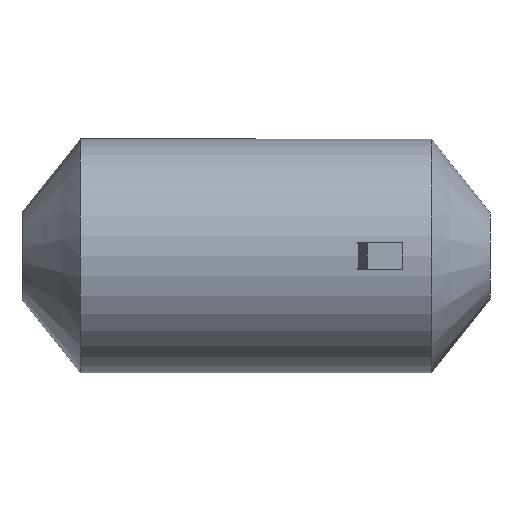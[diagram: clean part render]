
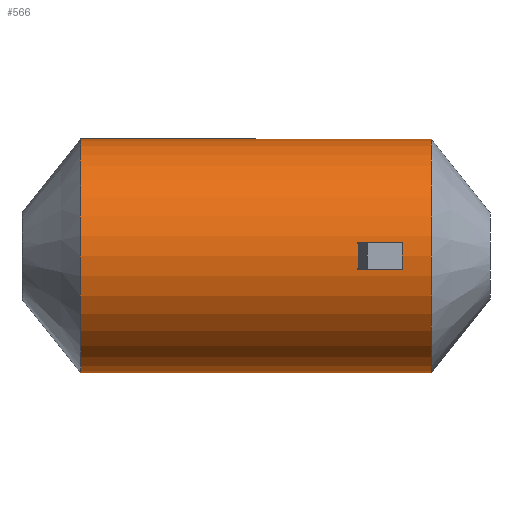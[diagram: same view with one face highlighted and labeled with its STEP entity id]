
A CAD part, left-side view. The second image highlights one B-rep face of the part: STEP entity #566.
In plain terms, the highlighted cylindrical face has radius 8000 mm (diameter 16000 mm), a partial arc.
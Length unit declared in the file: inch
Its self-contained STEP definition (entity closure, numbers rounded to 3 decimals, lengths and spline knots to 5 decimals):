
#3 = CARTESIAN_POINT ( 'NONE',  ( 0., 472.44094, 0. ) ) ;
#6 = EDGE_CURVE ( 'NONE', #756, #235, #911, .T. ) ;
#38 = DIRECTION ( 'NONE',  ( 0., 0., -1. ) ) ;
#56 = ORIENTED_EDGE ( 'NONE', *, *, #928, .F. ) ;
#65 = DIRECTION ( 'NONE',  ( 0., -1., 0. ) ) ;
#116 = DIRECTION ( 'NONE',  ( 0., 0., -1. ) ) ;
#133 = CARTESIAN_POINT ( 'NONE',  ( 0., -629.92126, 314.96063 ) ) ;
#153 = DIRECTION ( 'NONE',  ( 0., 0., -1. ) ) ;
#191 = DIRECTION ( 'NONE',  ( 0., -1., 0. ) ) ;
#197 = DIRECTION ( 'NONE',  ( 0., -1., 0. ) ) ;
#235 = VERTEX_POINT ( 'NONE', #797 ) ;
#257 = ORIENTED_EDGE ( 'NONE', *, *, #899, .T. ) ;
#288 = CYLINDRICAL_SURFACE ( 'NONE', #871, 314.96063 ) ;
#350 = CARTESIAN_POINT ( 'NONE',  ( 0., -472.44094, 314.96063 ) ) ;
#352 = AXIS2_PLACEMENT_3D ( 'NONE', #422, #197, #38 ) ;
#355 = CARTESIAN_POINT ( 'NONE',  ( 0., -629.92126, 0. ) ) ;
#375 = ORIENTED_EDGE ( 'NONE', *, *, #435, .T. ) ;
#422 = CARTESIAN_POINT ( 'NONE',  ( 0., -472.44094, 0. ) ) ;
#435 = EDGE_CURVE ( 'NONE', #493, #845, #615, .T. ) ;
#440 = CARTESIAN_POINT ( 'NONE',  ( 0., -629.92126, -314.96063 ) ) ;
#445 = AXIS2_PLACEMENT_3D ( 'NONE', #3, #807, #153 ) ;
#472 = ORIENTED_EDGE ( 'NONE', *, *, #6, .F. ) ;
#478 = EDGE_LOOP ( 'NONE', ( #56, #375, #257, #472 ) ) ;
#493 = VERTEX_POINT ( 'NONE', #672 ) ;
#500 = LINE ( 'NONE', #440, #754 ) ;
#566 = ADVANCED_FACE ( 'NONE', ( #931 ), #288, .T. ) ;
#609 = VECTOR ( 'NONE', #65, 39.37008 ) ;
#614 = CARTESIAN_POINT ( 'NONE',  ( 0., 472.44094, -314.96063 ) ) ;
#615 = CIRCLE ( 'NONE', #445, 314.96063 ) ;
#672 = CARTESIAN_POINT ( 'NONE',  ( 0., 472.44094, 314.96063 ) ) ;
#715 = LINE ( 'NONE', #133, #609 ) ;
#722 = DIRECTION ( 'NONE',  ( 0., -1., 0. ) ) ;
#754 = VECTOR ( 'NONE', #722, 39.37008 ) ;
#756 = VERTEX_POINT ( 'NONE', #350 ) ;
#797 = CARTESIAN_POINT ( 'NONE',  ( 0., -472.44094, -314.96063 ) ) ;
#807 = DIRECTION ( 'NONE',  ( 0., -1., 0. ) ) ;
#845 = VERTEX_POINT ( 'NONE', #614 ) ;
#871 = AXIS2_PLACEMENT_3D ( 'NONE', #355, #191, #116 ) ;
#899 = EDGE_CURVE ( 'NONE', #845, #235, #500, .T. ) ;
#911 = CIRCLE ( 'NONE', #352, 314.96063 ) ;
#928 = EDGE_CURVE ( 'NONE', #493, #756, #715, .T. ) ;
#931 = FACE_OUTER_BOUND ( 'NONE', #478, .T. ) ;
